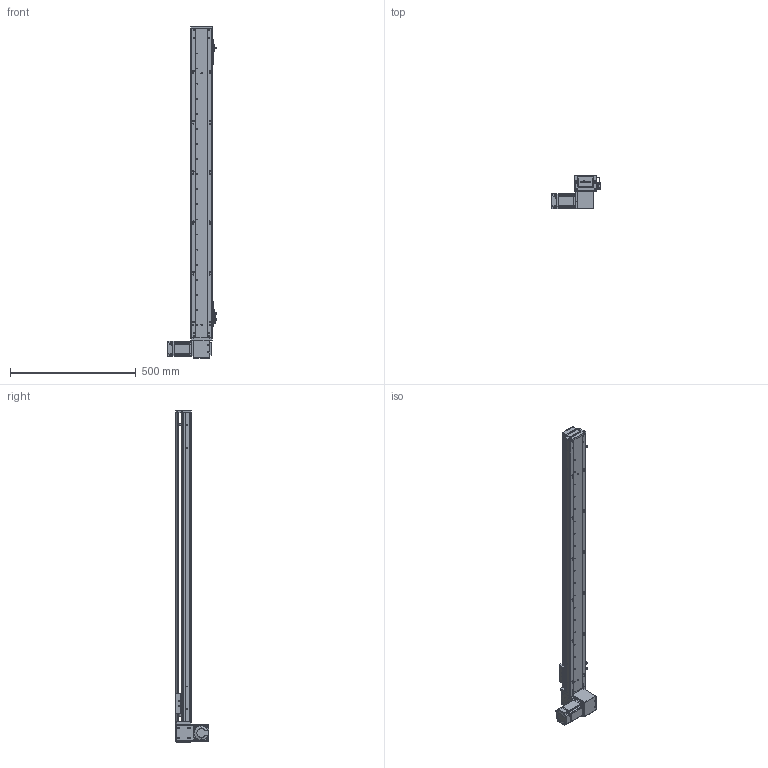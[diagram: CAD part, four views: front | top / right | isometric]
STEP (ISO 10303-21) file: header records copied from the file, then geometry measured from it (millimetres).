
FILE_DESCRIPTION (( 'STEP AP203' ), '1' );
FILE_NAME ('RY80-T-300-DL.SLDASM_1050.step', '2021-03-01T01:38:39', ( '盈信电脑' ), ( '东莞市道滘镇水果街19号' ), 'SwSTEP 2.0', 'SolidWorks 2012', '' );
FILE_SCHEMA (( 'CONFIG_CONTROL_DESIGN' ));
Products named in the file (19): RY80-T-300-DL.SLDASM_1050; RY100-T粣創揤踡裔; RY80-T-M4蹟翐3; RY80-T-上下折同步轮盖板; RY80-T肮祭謫狟殏俋欶; 1; RY80-T翋肮祭謫裔啣; RY80-T萇儂假蚾啣; 滅袉蝶18-10; RY80-T肮祭湍揤輸2; RY80-T肮祭湍揤輸1; RY80俋离覜茼え; RY80-T-翋肮祭謫釱; 672嫖萇羲壽假蚾釱; RY80-T綴裔啣; RY80-T-300-DL倰第奻裔啣_1050; 覜茼ん672; RY80-T-300-DL倰第菁釱_1050; RY80-T肮祭謫臏賑輸
Assembly tree (24 placements, depth 2):
  RY80-T-300-DL.SLDASM_1050
    RY80-T-300-DL倰第菁釱_1050
    RY80-T肮祭謫臏賑輸
    RY80-T-300-DL倰第奻裔啣_1050
    RY80-T綴裔啣
    672嫖萇羲壽假蚾釱  x2
    覜茼ん672  x3
    RY80俋离覜茼え
    RY80-T-翋肮祭謫釱
    RY80-T肮祭湍揤輸1
    RY80-T肮祭湍揤輸2
    RY80-T萇儂假蚾啣
    RY80-T翋肮祭謫裔啣  x2
    滅袉蝶18-10  x2
    1
    RY80-T肮祭謫狟殏俋欶
    RY80-T-M4蹟翐3  x2
    RY80-T-上下折同步轮盖板
    RY100-T粣創揤踡裔
Bounding box: 198.7 x 134.5 x 1320 mm (x, y, z)
Volume: 2253367.1 mm3; surface area: 950887.4 mm2
Topology: 24 solids, 24 shells, 2460 faces, 6768 edges, 4393 vertices
Faces by surface type: plane 1333, cylinder 923, cone 148, bspline 56
Entity records: 76817 total; most frequent: CARTESIAN_POINT 18296, ORIENTED_EDGE 11980, DIRECTION 11330, EDGE_CURVE 5990, VERTEX_POINT 3934, AXIS2_PLACEMENT_3D 3800, LINE 3730, VECTOR 3730
